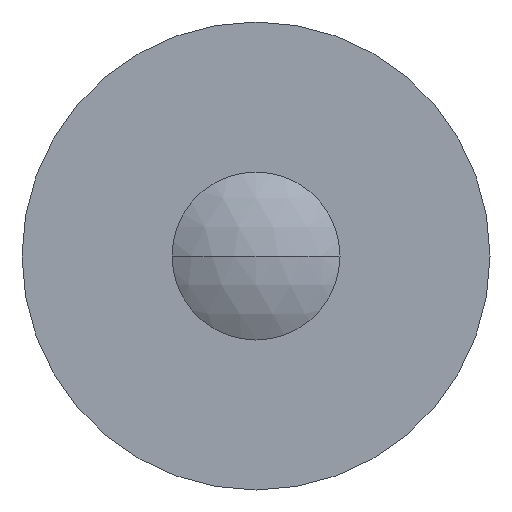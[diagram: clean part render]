
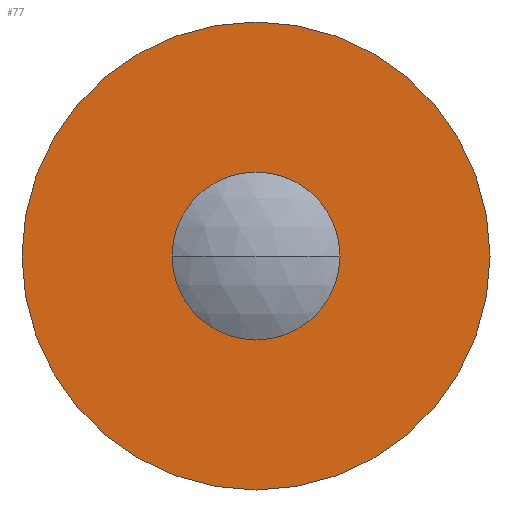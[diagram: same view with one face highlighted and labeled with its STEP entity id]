
A CAD part, front view. The second image highlights one B-rep face of the part: STEP entity #77.
In plain terms, the highlighted planar face has unit normal (0, -1, 0).
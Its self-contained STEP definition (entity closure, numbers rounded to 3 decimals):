
#77=ADVANCED_FACE('',(#102,#103),#104,.F.);
#102=FACE_OUTER_BOUND('',#149,.T.);
#103=FACE_BOUND('',#150,.T.);
#104=PLANE('',#151);
#149=EDGE_LOOP('',(#204,#205));
#150=EDGE_LOOP('',(#206,#207));
#151=AXIS2_PLACEMENT_3D('',#208,#209,#210);
#204=ORIENTED_EDGE('',*,*,#354,.T.);
#205=ORIENTED_EDGE('',*,*,#355,.T.);
#206=ORIENTED_EDGE('',*,*,#353,.F.);
#207=ORIENTED_EDGE('',*,*,#351,.F.);
#208=CARTESIAN_POINT('',(-9.75,-2.5,0.0));
#209=DIRECTION('',(0.0,1.0,0.0));
#210=DIRECTION('',(1.0,0.0,-0.0));
#351=EDGE_CURVE('',#396,#399,#400,.T.);
#353=EDGE_CURVE('',#399,#396,#402,.T.);
#354=EDGE_CURVE('',#403,#404,#405,.T.);
#355=EDGE_CURVE('',#404,#403,#406,.T.);
#396=VERTEX_POINT('',#471);
#399=VERTEX_POINT('',#474);
#400=CIRCLE('',#475,3.5);
#402=CIRCLE('',#477,3.5);
#403=VERTEX_POINT('',#478);
#404=VERTEX_POINT('',#479);
#405=CIRCLE('',#480,9.75);
#406=CIRCLE('',#481,9.75);
#471=CARTESIAN_POINT('',(3.5,-2.5,0.));
#474=CARTESIAN_POINT('',(-3.5,-2.5,0.0));
#475=AXIS2_PLACEMENT_3D('',#577,#578,#579);
#477=AXIS2_PLACEMENT_3D('',#583,#584,#585);
#478=CARTESIAN_POINT('',(0.0,-2.5,-9.75));
#479=CARTESIAN_POINT('',(0.,-2.5,9.75));
#480=AXIS2_PLACEMENT_3D('',#586,#587,#588);
#481=AXIS2_PLACEMENT_3D('',#589,#590,#591);
#577=CARTESIAN_POINT('',(0.0,-2.5,0.0));
#578=DIRECTION('',(0.0,-1.0,0.0));
#579=DIRECTION('',(0.0,0.0,-1.0));
#583=CARTESIAN_POINT('',(0.0,-2.5,0.0));
#584=DIRECTION('',(0.0,-1.0,0.0));
#585=DIRECTION('',(0.0,0.0,-1.0));
#586=CARTESIAN_POINT('',(0.0,-2.5,0.0));
#587=DIRECTION('',(0.0,-1.0,0.0));
#588=DIRECTION('',(0.0,0.0,-1.0));
#589=CARTESIAN_POINT('',(0.0,-2.5,0.0));
#590=DIRECTION('',(0.0,-1.0,0.0));
#591=DIRECTION('',(0.0,0.0,-1.0));
